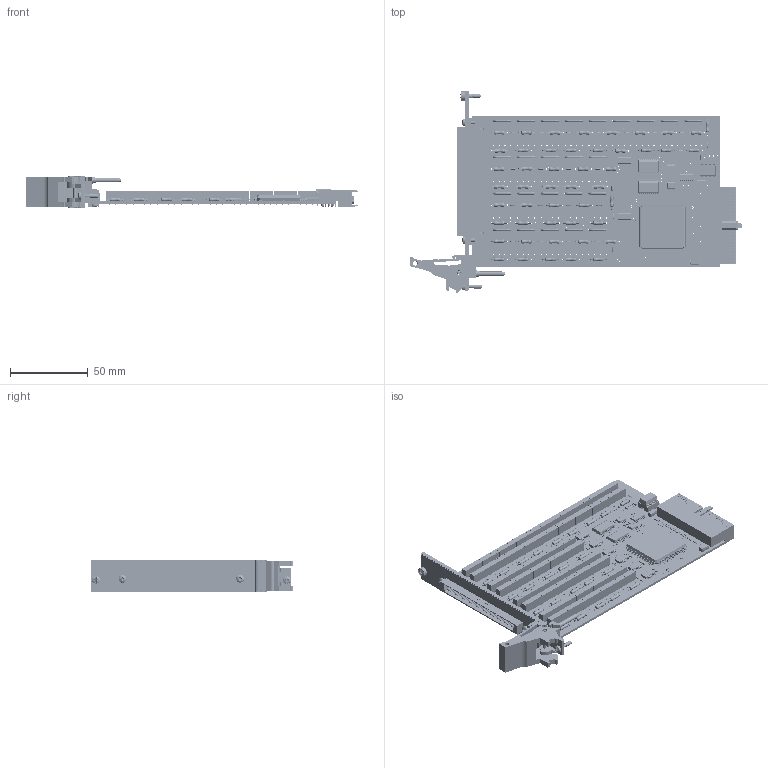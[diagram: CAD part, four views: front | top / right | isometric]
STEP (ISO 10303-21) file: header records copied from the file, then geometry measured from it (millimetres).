
FILE_DESCRIPTION (( 'STEP AP214' ), '1' );
FILE_NAME ('40-281-121-S118 24 CH Selectable with Offset.step', '2025-03-24T12:42:57', ( '' ), ( '' ), 'SwSTEP 2.0', 'SolidWorks 2023', '' );
FILE_SCHEMA (( 'AUTOMOTIVE_DESIGN' ));
Length unit declared in the file: millimetre
Products named in the file (44): C-CP-160 Cap 10uF 16V Tant Smt (C.CASE); C-WR-105 BTC Wire 25-SWG pcb371 LINK; C-FX-165 Handle Pin; C-FX-101 Screw, M2.5 x 6, Pan Hd, Pozi, Steel, BZP; L-FP-163-# PXI 3U 1 Slot 96 Way FP Label; C-CN-035 SOCKET IC 8 WAY DIL low profil_Výchozí; C-CN-355 Compact pci connector 3; A-PC-371-# PXI Programmable Resistor Card; C-RL-048 109P-1-A-5-2D; C-FP-163 PXI 3U 1-Slot 96-Way Connector; C-RS-079 Fixed Network Resistor, 10 kohm, 4 Elements, Isolated, 1206 IMP or 3216 Metric, 8 Pins; P-FX-017 M2,5 Collar Posi-Slot Screw; C-IC-056 Voltage Supervisor 8-Pin SOIC SMT_No Text; C-BK-026 Bush Front Panel Mounting; C-RS-102 RES 4x10R 1206 1-16W 5% 200PPM; C-FX-165 Handle Body; C-MS-576 Sleeving Silicone 0.5mm Dia pcb371 LINK; C-RS-1617 Res 1K 0.5W 1% 50PPM; C-PC-371 PXI Programmable Resistor Card; C-RS-1618 Res 9K 0.5W 1% 500PPM; C-IC-100 IC, with Clear, Non Inverted, Positive Edge, 12 ns, 37 MHz, 4 mA, SOIC_Without Pckage Description; C-IC-124 16-Bit Constant Current Sink Driver; C-CN-379 96 Way Connector.Part; L-FX-165 PXI Handle Label; C-FX-165 Handle Finger; C-SC-035 Transistor SMT; C-IC-219 PCI Interface IC 32-bit 33MHz PCI Target; 40-281-121-S118 24 CH Selectable with Offset; C-WR-105-L1 BTC Wire 25-SWG pcb371 LINK Assembly; C-RS-085 Res 150R 0805; A-FP-163 FP + Label Assy; L-FP-163 PXI 3U 1 Slot 96 Way FP Label Assy; Z-FX-2001 FP Fixing - Bush + Screw; A-FP-163-L1 FP Full Assy; C-BP-015 PXI 3U x 1 Slot Blank Panel; C-CP-034; C-WR-105 BTC WIRE 25 SWG_2.54 mm; C-IC-087 IC TTL Gate 14-Pin SOIC_No Text; C-IC-101 IC 653 Octal-Channel Buffer & Line Driver 3-State 20-Pin SOIC; C-IC-099 DIP8 Package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
Assembly tree (231 placements, depth 5):
  40-281-121-S118 24 CH Selectable with Offset
    A-PC-371-V11 24 Channel Selectable Resistor Board
      A-PC-371-# PXI Programmable Resistor Card
        C-PC-371 PXI Programmable Resistor Card
        C-CN-355 Compact pci connector 3
        C-IC-219 PCI Interface IC 32-bit 33MHz PCI Target
        C-IC-056 Voltage Supervisor 8-Pin SOIC SMT_No Text  x2
        C-IC-087 IC TTL Gate 14-Pin SOIC_No Text
        C-IC-100 IC, with Clear, Non Inverted, Positive Edge, 12 ns, 37 MHz, 4 mA, SOIC_Without Pckage Description
        C-IC-101 IC 653 Octal-Channel Buffer & Line Driver 3-State 20-Pin SOIC
        C-IC-124 16-Bit Constant Current Sink Driver  x6
        C-CP-160 Cap 10uF 16V Tant Smt (C.CASE)  x2
        C-RS-079 Fixed Network Resistor, 10 kohm, 4 Elements, Isolated, 1206 IMP or 3216 Metric, 8 Pins  x2
        C-RS-102 RES 4x10R 1206 1-16W 5% 200PPM  x11
        C-RS-085 Res 150R 0805
        C-CN-035 SOCKET IC 8 WAY DIL low profil_Výchozí
        C-IC-099 DIP8 Package
        C-SC-035 Transistor SMT
        C-RS-148 Res 1K 0603 1-16W 1% 100PPM  x7
        C-CP-034  x21
      C-WR-105-L1 BTC Wire 25-SWG pcb371 LINK Assembly  x24
        C-MS-576 Sleeving Silicone 0.5mm Dia pcb371 LINK
        C-WR-105 BTC Wire 25-SWG pcb371 LINK
      C-RL-048 109P-1-A-5-2D  x48
      C-RS-1617 Res 1K 0.5W 1% 50PPM  x24
      C-RS-1618 Res 9K 0.5W 1% 500PPM  x24
      C-WR-105 BTC WIRE 25 SWG_2.54 mm  x24
    A-FP-163-L1 FP Full Assy
      A-FP-163 FP + Label Assy
        C-FP-163 PXI 3U 1-Slot 96-Way Connector
          C-BP-015 PXI 3U x 1 Slot Blank Panel
        L-FP-163 PXI 3U 1 Slot 96 Way FP Label Assy
          L-FP-163-# PXI 3U 1 Slot 96 Way FP Label
      C-FX-165 CPCI Ejector Handle
        C-FX-165 Handle Body
        C-FX-165 Handle Finger
        C-FX-165 Handle Pin
        P-FX-017 M2,5 Collar Posi-Slot Screw
        L-FX-165 PXI Handle Label
      Z-FX-2001 FP Fixing - Bush + Screw
        C-BK-026 Bush Front Panel Mounting
        C-FX-1176 M2,5 Collar Posi-Slot Screw
      C-FX-101 Screw, M2.5 x 6, Pan Hd, Pozi, Steel, BZP
    C-CN-379 96 Way Connector.Part
    C-FX-101 Screw, M2.5 x 6, Pan Hd, Pozi, Steel, BZP  x5
Bounding box: 213.7 x 129.63 x 20 mm (x, y, z)
Volume: 66572.6 mm3; surface area: 99716.3 mm2
Topology: 252 solids, 398 shells, 36899 faces, 96778 edges, 63109 vertices
Faces by surface type: plane 22255, cylinder 6612, bspline 6264, torus 1358, cone 386, sphere 24
Entity records: 461515 total; most frequent: CARTESIAN_POINT 76761, DIRECTION 59437, ORIENTED_EDGE 58696, EDGE_CURVE 29916, LINE 20675, VECTOR 20675, VERTEX_POINT 19553, AXIS2_PLACEMENT_3D 19381
